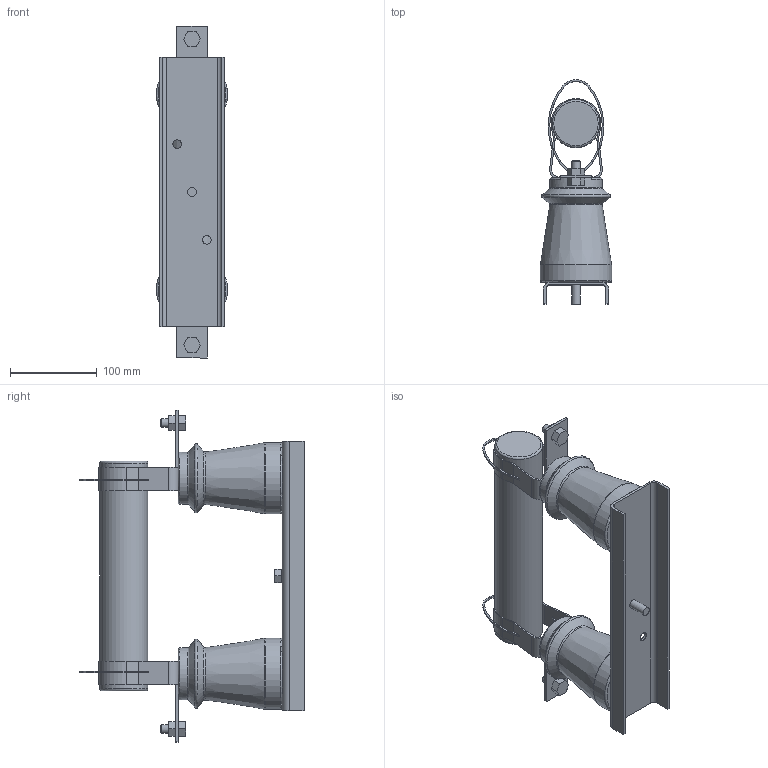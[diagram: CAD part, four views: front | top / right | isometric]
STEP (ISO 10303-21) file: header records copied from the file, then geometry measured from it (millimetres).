
FILE_DESCRIPTION (( 'STEP AP214' ), '1' );
FILE_NAME ('Ïðåäîõðàíèòåëü ÏÊÒ-Ô-6 7,2-ÓÇ.STEP', '2023-03-03T07:27:09', ( '' ), ( '' ), 'SwSTEP 2.0', 'SolidWorks 2018', '' );
FILE_SCHEMA (( 'AUTOMOTIVE_DESIGN' ));
Length unit declared in the file: millimetre
Products named in the file (1): Ïðåäîõðàíèòåëü ÏÊÒ-Ô-6 7,2-ÓÇ
Bounding box: 82 x 257.94 x 382 mm (x, y, z)
Volume: 1759521.7 mm3; surface area: 211147.4 mm2
Topology: 1 solids, 3 shells, 182 faces, 483 edges, 316 vertices
Faces by surface type: plane 113, cylinder 47, torus 14, cone 8
Full cylindrical faces by diameter (mm): 10 x6, 12 x2, 55 x1, 60 x2, 82 x2
Entity records: 5384 total; most frequent: CARTESIAN_POINT 967, DIRECTION 916, ORIENTED_EDGE 856, EDGE_CURVE 428, AXIS2_PLACEMENT_3D 309, VECTOR 298, LINE 298, VERTEX_POINT 296
